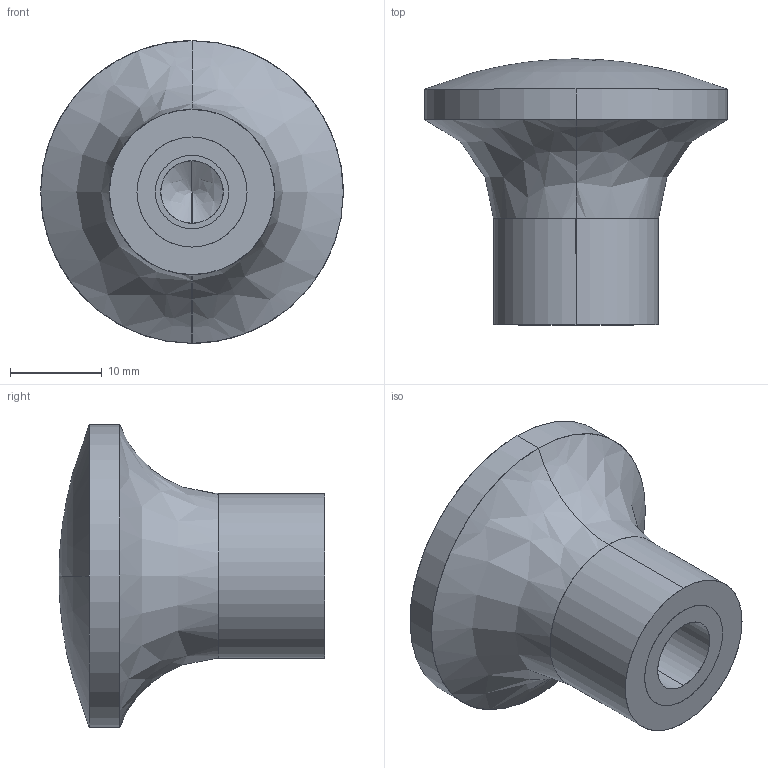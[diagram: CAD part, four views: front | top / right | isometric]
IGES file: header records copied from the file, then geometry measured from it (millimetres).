
Start section: SolidWorks IGES file using analytic representation for surfaces
Global section: file name: C:\Users\IanO\Desktop\Temp File\Process pending\73200_v2\73200_v2_20171103_IGES\73200.W0033.igs; native system: SolidWorks 2017; preprocessor: SolidWorks 2017; author: IanO; date: 171103.111735; units: millimetre
Bounding box: 33 x 29 x 33 mm (x, y, z)
Surface area: 4949.7 mm2 (no closed solid volume)
Topology: 0 solids, 0 shells, 37 faces, 572 edges, 565 vertices
Faces by surface type: revolution 28, bspline 9
